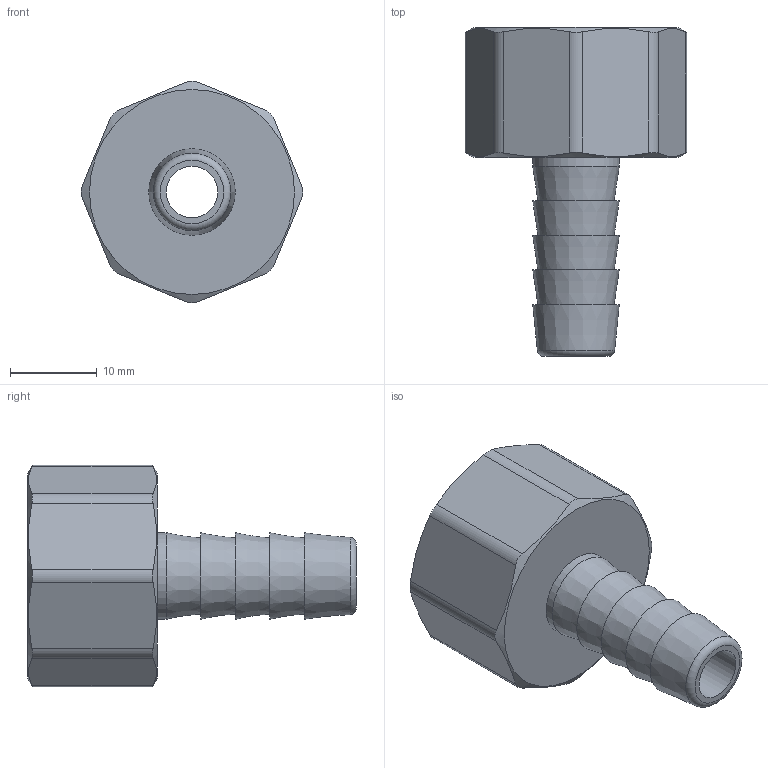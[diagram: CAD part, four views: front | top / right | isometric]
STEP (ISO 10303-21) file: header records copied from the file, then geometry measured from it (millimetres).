
FILE_DESCRIPTION(('STEP AP203'), '1');
FILE_NAME('覆.753154.011 - VTr.654.N.0410 幄鼭歑', '2024-08-02T07:33:20', ('Boss'), (''), 'C3D Converter', 'C3D Toolkit', '');
FILE_SCHEMA(('CONFIG_CONTROL_DESIGN'));
Length unit declared in the file: millimetre
Products named in the file (1): ВР.753154.011
Bounding box: 25.65 x 38 x 25.65 mm (x, y, z)
Volume: 4668.3 mm3; surface area: 3921.1 mm2
Topology: 1 solids, 1 shells, 37 faces, 84 edges, 55 vertices
Faces by surface type: plane 16, cylinder 11, cone 9, torus 1
Full cylindrical faces by diameter (mm): 6 x1, 10 x1, 18.632 x1
Entity records: 1995 total; most frequent: CARTESIAN_POINT 1222, ORIENTED_EDGE 142, DIRECTION 134, EDGE_CURVE 71, AXIS2_PLACEMENT_3D 59, EDGE_LOOP 58, VERTEX_POINT 55, ADVANCED_FACE 37
